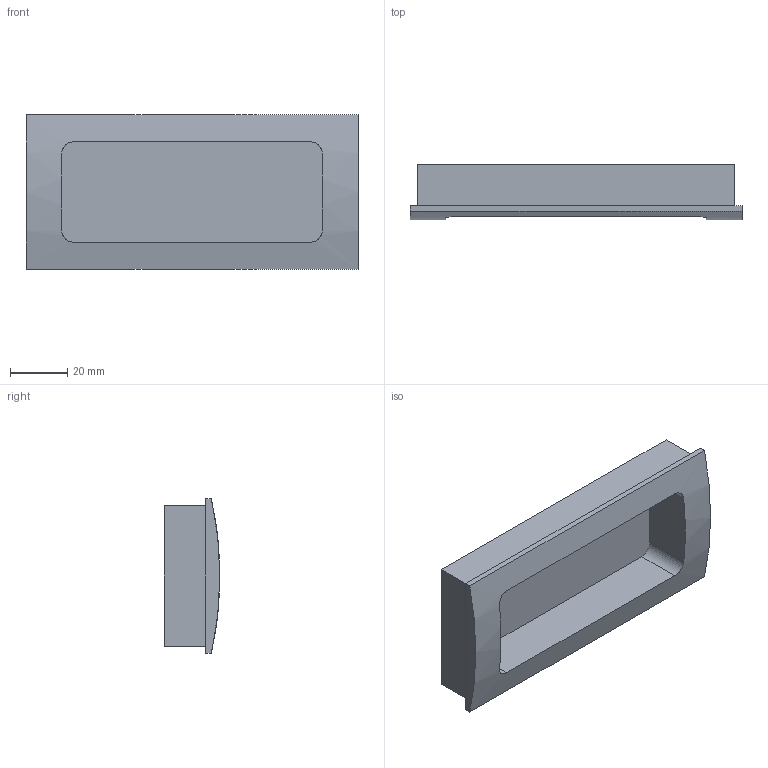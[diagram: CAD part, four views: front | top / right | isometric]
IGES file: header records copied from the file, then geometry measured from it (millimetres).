
Start section: Data from Parasolid IGES Translator 15.0.47, Copyright(c) 2006 Siemens P LM Software. All Rights Reserved.
Global section: file name: 115181.igs; native system:  By UGS Corp.; preprocessor: XPlus GENERIC/IGES 3.0; author: Noname; organization: Noname; date: 20140122.180743; units: millimetre
Bounding box: 116 x 19.5 x 54 mm (x, y, z)
Surface area: 22398.7 mm2 (no closed solid volume)
Topology: 0 solids, 0 shells, 24 faces, 108 edges, 106 vertices
Faces by surface type: extrusion 17, revolution 7
